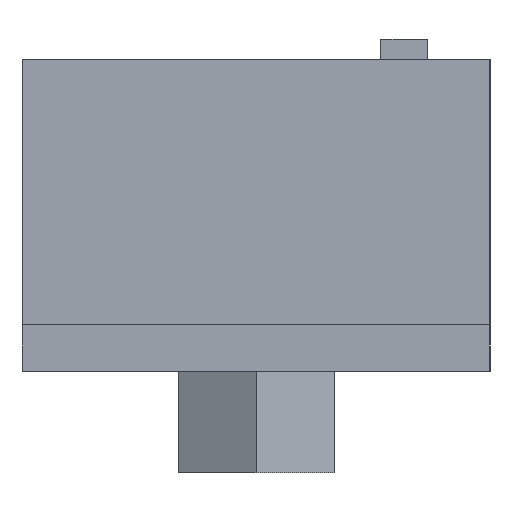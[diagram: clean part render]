
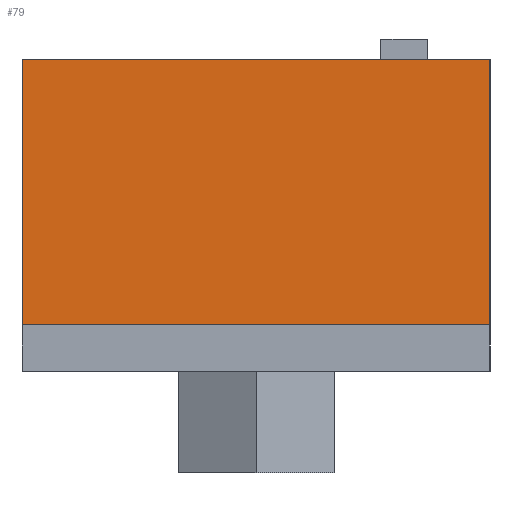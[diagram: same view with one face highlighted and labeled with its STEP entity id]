
A CAD part, left-side view. The second image highlights one B-rep face of the part: STEP entity #79.
In plain terms, the highlighted planar face has unit normal (-1, 0, 0).
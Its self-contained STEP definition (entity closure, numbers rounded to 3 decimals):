
#78 = ORIENTED_EDGE ( 'NONE', *, *, #1924, .T. ) ;
#79 = ADVANCED_FACE ( 'NONE', ( #686 ), #853, .T. ) ;
#80 = ORIENTED_EDGE ( 'NONE', *, *, #1949, .F. ) ;
#89 = VERTEX_POINT ( 'NONE', #846 ) ;
#90 = VERTEX_POINT ( 'NONE', #738 ) ;
#686 = FACE_OUTER_BOUND ( 'NONE', #1941, .T. ) ;
#691 = AXIS2_PLACEMENT_3D ( 'NONE', #851, #850, #849 ) ;
#738 = CARTESIAN_POINT ( 'NONE',  ( -15., -15., -17. ) ) ;
#846 = CARTESIAN_POINT ( 'NONE',  ( -15., -15., 0. ) ) ;
#849 = DIRECTION ( 'NONE',  ( 0., -1., 0. ) ) ;
#850 = DIRECTION ( 'NONE',  ( -1., 0., 0. ) ) ;
#851 = CARTESIAN_POINT ( 'NONE',  ( -15., 15., -20. ) ) ;
#853 = PLANE ( 'NONE',  #691 ) ;
#1712 = DIRECTION ( 'NONE',  ( 0., 0., 1. ) ) ;
#1713 = VECTOR ( 'NONE', #1712, 1000. ) ;
#1714 = CARTESIAN_POINT ( 'NONE',  ( -15., 15., -20. ) ) ;
#1717 = LINE ( 'NONE', #1714, #1713 ) ;
#1734 = DIRECTION ( 'NONE',  ( 0., -1., 0. ) ) ;
#1735 = VECTOR ( 'NONE', #1734, 1000. ) ;
#1736 = CARTESIAN_POINT ( 'NONE',  ( -15., 15., -17. ) ) ;
#1737 = LINE ( 'NONE', #1736, #1735 ) ;
#1770 = DIRECTION ( 'NONE',  ( 0., -1., 0. ) ) ;
#1771 = VECTOR ( 'NONE', #1770, 1000. ) ;
#1772 = CARTESIAN_POINT ( 'NONE',  ( -15., 15., 0. ) ) ;
#1773 = LINE ( 'NONE', #1772, #1771 ) ;
#1774 = CARTESIAN_POINT ( 'NONE',  ( -15., 15., -17. ) ) ;
#1775 = DIRECTION ( 'NONE',  ( 0., 0., 1. ) ) ;
#1776 = VECTOR ( 'NONE', #1775, 1000. ) ;
#1780 = CARTESIAN_POINT ( 'NONE',  ( -15., -15., -20. ) ) ;
#1781 = LINE ( 'NONE', #1780, #1776 ) ;
#1791 = CARTESIAN_POINT ( 'NONE',  ( -15., 15., 0. ) ) ;
#1924 = EDGE_CURVE ( 'NONE', #90, #89, #1781, .T. ) ;
#1925 = EDGE_CURVE ( 'NONE', #1947, #89, #1773, .T. ) ;
#1927 = VERTEX_POINT ( 'NONE', #1774 ) ;
#1938 = EDGE_CURVE ( 'NONE', #1927, #90, #1737, .T. ) ;
#1940 = ORIENTED_EDGE ( 'NONE', *, *, #1938, .T. ) ;
#1941 = EDGE_LOOP ( 'NONE', ( #80, #1940, #78, #1956 ) ) ;
#1947 = VERTEX_POINT ( 'NONE', #1791 ) ;
#1949 = EDGE_CURVE ( 'NONE', #1927, #1947, #1717, .T. ) ;
#1956 = ORIENTED_EDGE ( 'NONE', *, *, #1925, .F. ) ;
